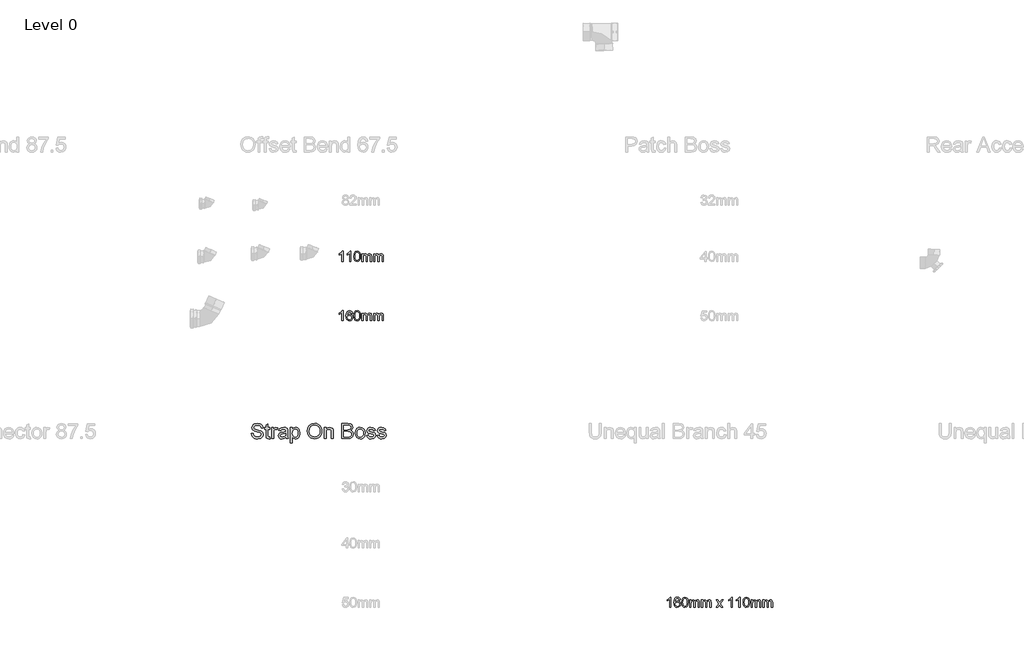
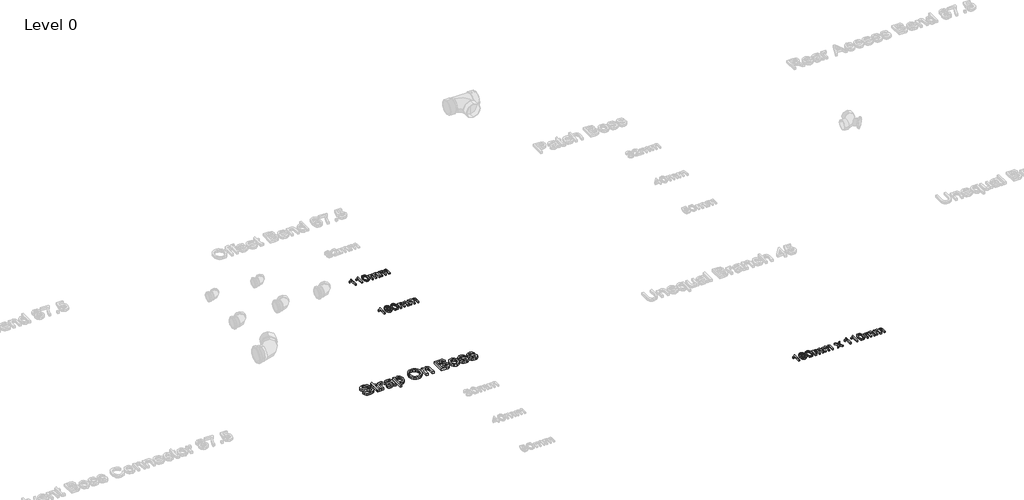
# One storey, part 5 of 28: 4 proxies.
"""IFC4 building model written with IfcOpenShell, lengths in millimetres."""

from ifc_helpers import new_model, si_unit, origin, origin_with_axes, place, context, project, spatial, polyline, outline, extrude, element, save

model = new_model("IFC4")

# Units and contexts
model_context = context("Model", 3, world=origin())
ifc_project = project(units=[si_unit("LENGTHUNIT", "METRE", prefix="MILLI")], contexts=[model_context])

# Site, building, storey
site = spatial("IfcSite", under=ifc_project)
building = spatial("IfcBuilding", under=site)
storey = spatial("IfcBuildingStorey", under=building, Name="Level 0", Elevation=0.0)

# Proxies
placement = place(None, origin())
element("IfcBuildingElementProxy", 1, Name="100mm Arial", ObjectType="100mm Arial", at=placement, inside=storey, context=model_context, shape_type="SweptSolid", body=[
    extrude(outline(polyline([(-10291.7293188, -742.2832696), (-10304.0370111, -742.2832696), (-10304.0370111, -665.5525004), (-10315.6956649, -673.8577889), (-10328.6523957, -680.0717312), (-10328.6523957, -668.4371158), (-10310.6115303, -656.9226927), (-10299.6620111, -643.8217312), (-10291.7293188, -643.8217312), (-10291.7293188, -742.2832696)])), origin_with_axes(), (0.0, 0.0, 1.0), 15.0),
    extrude(outline(polyline([(-10199.4216264, -669.9755773), (-10211.7293188, -671.5140389), (-10216.3927803, -661.2496158), (-10228.7245111, -656.1294235), (-10239.8302803, -659.1101927), (-10248.2317226, -670.3000965), (-10251.7293188, -692.2351927), (-10240.8759534, -682.4154812), (-10227.4264341, -679.2063465), (-10216.0562418, -681.3998562), (-10206.5129726, -687.980385), (-10200.0406168, -698.0344715), (-10197.8831649, -710.6486542), (-10201.9456649, -727.6318273), (-10213.1235495, -739.6510581), (-10229.2533572, -743.8217312), (-10243.2166986, -741.0573081), (-10254.3374918, -732.7640389), (-10261.6121313, -718.1246158), (-10264.0370111, -696.3217312), (-10261.3447034, -671.80851), (-10253.2677803, -655.0476927), (-10242.2401361, -646.6282215), (-10227.9552803, -643.8217312), (-10217.1560014, -645.55851), (-10208.5081649, -650.7688465), (-10202.4504726, -659.0440869), (-10199.4216264, -669.9755773)]), holes=[polyline([(-10251.7293188, -710.4563465), (-10248.8807611, -721.1174042), (-10241.3086457, -728.8577889), (-10230.2148957, -731.5140389), (-10222.0929005, -730.1378369), (-10215.7076841, -726.0092312), (-10211.5700639, -719.5188465), (-10210.1908572, -711.0573081), (-10211.5520351, -702.9353129), (-10215.6355688, -696.7424042), (-10230.7197034, -691.5140389), (-10245.6115303, -696.7424042), (-10250.1998716, -702.7850725), (-10251.7293188, -710.4563465)])]), origin_with_axes(), (0.0, 0.0, 1.0), 15.0),
    extrude(outline(polyline([(-10187.1139341, -693.8457696), (-10183.4961457, -665.5164427), (-10172.7509534, -649.1823081), (-10154.8062418, -643.8217312), (-10140.4312418, -646.9948081), (-10130.5033572, -656.1414427), (-10124.7341264, -670.7087504), (-10122.4985495, -693.8457696), (-10126.0802803, -722.0549042), (-10136.7894149, -738.4250965), (-10154.8062418, -743.8217312), (-10167.5947034, -741.4779812), (-10177.3062418, -734.4467312), (-10184.6620111, -717.7940869), (-10187.1139341, -693.8457696)]), holes=[polyline([(-10174.8062418, -693.8217312), (-10173.3639341, -713.1817071), (-10169.0370111, -724.386635), (-10162.5947034, -729.7321879), (-10154.8062418, -731.5140389), (-10147.0177803, -729.7261783), (-10140.5754726, -724.3625965), (-10136.2485495, -713.151659), (-10134.8062418, -693.8217312), (-10136.2004726, -674.8974523), (-10140.3831649, -663.605385), (-10146.8134534, -657.9984139), (-10154.9504726, -656.1294235), (-10162.6547995, -657.7760581), (-10168.8447034, -662.7159619), (-10173.3158572, -674.7111542), (-10174.8062418, -693.8217312)])]), origin_with_axes(), (0.0, 0.0, 1.0), 15.0),
    extrude(outline(polyline([(-10108.6523957, -742.2832696), (-10108.6523957, -669.9755773), (-10096.3447034, -669.9755773), (-10096.3447034, -681.8746158), (-10087.8831649, -672.1270196), (-10075.8398957, -668.4371158), (-10063.5081649, -672.199135), (-10056.7293188, -682.7400004), (-10047.1259534, -672.0128369), (-10034.9985495, -668.4371158), (-10025.7467466, -669.9244956), (-10018.9047995, -674.386635), (-10014.6770351, -681.9437264), (-10013.2677803, -692.7159619), (-10013.2677803, -742.2832696), (-10025.5754726, -742.2832696), (-10025.5754726, -698.0044235), (-10026.7172995, -687.7279812), (-10030.8519149, -682.667885), (-10037.8831649, -680.7448081), (-10049.9865303, -685.6726927), (-10054.8062418, -701.4659619), (-10054.8062418, -742.2832696), (-10067.1139341, -742.2832696), (-10067.1139341, -696.6342312), (-10069.9624918, -684.7111542), (-10079.3014341, -680.7448081), (-10088.4120111, -683.3890389), (-10094.4697034, -691.1294235), (-10096.3447034, -705.8169235), (-10096.3447034, -742.2832696), (-10108.6523957, -742.2832696)])), origin_with_axes(), (0.0, 0.0, 1.0), 15.0),
    extrude(outline(polyline([(-9994.8062418, -742.2832696), (-9994.8062418, -669.9755773), (-9982.4985495, -669.9755773), (-9982.4985495, -681.8746158), (-9974.0370111, -672.1270196), (-9961.9937418, -668.4371158), (-9949.6620111, -672.199135), (-9942.8831649, -682.7400004), (-9933.2797995, -672.0128369), (-9921.1523957, -668.4371158), (-9911.9005928, -669.9244956), (-9905.0586457, -674.386635), (-9900.8308813, -681.9437264), (-9899.4216264, -692.7159619), (-9899.4216264, -742.2832696), (-9911.7293188, -742.2832696), (-9911.7293188, -698.0044235), (-9912.8711457, -687.7279812), (-9917.0057611, -682.667885), (-9924.0370111, -680.7448081), (-9936.1403764, -685.6726927), (-9940.960088, -701.4659619), (-9940.960088, -742.2832696), (-9953.2677803, -742.2832696), (-9953.2677803, -696.6342312), (-9956.116338, -684.7111542), (-9965.4552803, -680.7448081), (-9974.5658572, -683.3890389), (-9980.6235495, -691.1294235), (-9982.4985495, -705.8169235), (-9982.4985495, -742.2832696), (-9994.8062418, -742.2832696)])), origin_with_axes(), (0.0, 0.0, 1.0), 15.0),
])
element("IfcBuildingElementProxy", 2, Name="100mm Arial", ObjectType="100mm Arial", at=placement, inside=storey, context=model_context, shape_type="SweptSolid", body=[
    extrude(outline(polyline([(-7091.7293188, -3542.2832696), (-7104.0370111, -3542.2832696), (-7104.0370111, -3465.5525004), (-7115.6956649, -3473.8577889), (-7128.6523957, -3480.0717312), (-7128.6523957, -3468.4371158), (-7110.6115303, -3456.9226927), (-7099.6620111, -3443.8217312), (-7091.7293188, -3443.8217312), (-7091.7293188, -3542.2832696)])), origin_with_axes(), (0.0, 0.0, 1.0), 15.0),
    extrude(outline(polyline([(-6999.4216264, -3469.9755773), (-7011.7293188, -3471.5140389), (-7016.3927803, -3461.2496158), (-7028.7245111, -3456.1294235), (-7039.8302803, -3459.1101927), (-7048.2317226, -3470.3000965), (-7051.7293188, -3492.2351927), (-7040.8759534, -3482.4154812), (-7027.4264341, -3479.2063465), (-7016.0562418, -3481.3998562), (-7006.5129726, -3487.980385), (-7000.0406168, -3498.0344715), (-6997.8831649, -3510.6486542), (-7001.9456649, -3527.6318273), (-7013.1235495, -3539.6510581), (-7029.2533572, -3543.8217312), (-7043.2166986, -3541.0573081), (-7054.3374918, -3532.7640389), (-7061.6121313, -3518.1246158), (-7064.0370111, -3496.3217312), (-7061.3447034, -3471.80851), (-7053.2677803, -3455.0476927), (-7042.2401361, -3446.6282215), (-7027.9552803, -3443.8217312), (-7017.1560014, -3445.55851), (-7008.5081649, -3450.7688465), (-7002.4504726, -3459.0440869), (-6999.4216264, -3469.9755773)]), holes=[polyline([(-7051.7293188, -3510.4563465), (-7048.8807611, -3521.1174042), (-7041.3086457, -3528.8577889), (-7030.2148957, -3531.5140389), (-7022.0929005, -3530.1378369), (-7015.7076841, -3526.0092312), (-7011.5700639, -3519.5188465), (-7010.1908572, -3511.0573081), (-7011.5520351, -3502.9353129), (-7015.6355688, -3496.7424042), (-7030.7197034, -3491.5140389), (-7045.6115303, -3496.7424042), (-7050.1998716, -3502.7850725), (-7051.7293188, -3510.4563465)])]), origin_with_axes(), (0.0, 0.0, 1.0), 15.0),
    extrude(outline(polyline([(-6987.1139341, -3493.8457696), (-6983.4961457, -3465.5164427), (-6972.7509534, -3449.1823081), (-6954.8062418, -3443.8217312), (-6940.4312418, -3446.9948081), (-6930.5033572, -3456.1414427), (-6924.7341264, -3470.7087504), (-6922.4985495, -3493.8457696), (-6926.0802803, -3522.0549042), (-6936.7894149, -3538.4250965), (-6954.8062418, -3543.8217312), (-6967.5947034, -3541.4779812), (-6977.3062418, -3534.4467312), (-6984.6620111, -3517.7940869), (-6987.1139341, -3493.8457696)]), holes=[polyline([(-6974.8062418, -3493.8217312), (-6973.3639341, -3513.1817071), (-6969.0370111, -3524.386635), (-6962.5947034, -3529.7321879), (-6954.8062418, -3531.5140389), (-6947.0177803, -3529.7261783), (-6940.5754726, -3524.3625965), (-6936.2485495, -3513.151659), (-6934.8062418, -3493.8217312), (-6936.2004726, -3474.8974523), (-6940.3831649, -3463.605385), (-6946.8134534, -3457.9984139), (-6954.9504726, -3456.1294235), (-6962.6547995, -3457.7760581), (-6968.8447034, -3462.7159619), (-6973.3158572, -3474.7111542), (-6974.8062418, -3493.8217312)])]), origin_with_axes(), (0.0, 0.0, 1.0), 15.0),
    extrude(outline(polyline([(-6908.6523957, -3542.2832696), (-6908.6523957, -3469.9755773), (-6896.3447034, -3469.9755773), (-6896.3447034, -3481.8746158), (-6887.8831649, -3472.1270196), (-6875.8398957, -3468.4371158), (-6863.5081649, -3472.199135), (-6856.7293188, -3482.7400004), (-6847.1259534, -3472.0128369), (-6834.9985495, -3468.4371158), (-6825.7467466, -3469.9244956), (-6818.9047995, -3474.386635), (-6814.6770351, -3481.9437264), (-6813.2677803, -3492.7159619), (-6813.2677803, -3542.2832696), (-6825.5754726, -3542.2832696), (-6825.5754726, -3498.0044235), (-6826.7172995, -3487.7279812), (-6830.8519149, -3482.667885), (-6837.8831649, -3480.7448081), (-6849.9865303, -3485.6726927), (-6854.8062418, -3501.4659619), (-6854.8062418, -3542.2832696), (-6867.1139341, -3542.2832696), (-6867.1139341, -3496.6342312), (-6869.9624918, -3484.7111542), (-6879.3014341, -3480.7448081), (-6888.4120111, -3483.3890389), (-6894.4697034, -3491.1294235), (-6896.3447034, -3505.8169235), (-6896.3447034, -3542.2832696), (-6908.6523957, -3542.2832696)])), origin_with_axes(), (0.0, 0.0, 1.0), 15.0),
    extrude(outline(polyline([(-6794.8062418, -3542.2832696), (-6794.8062418, -3469.9755773), (-6782.4985495, -3469.9755773), (-6782.4985495, -3481.8746158), (-6774.0370111, -3472.1270196), (-6761.9937418, -3468.4371158), (-6749.6620111, -3472.199135), (-6742.8831649, -3482.7400004), (-6733.2797995, -3472.0128369), (-6721.1523957, -3468.4371158), (-6711.9005928, -3469.9244956), (-6705.0586457, -3474.386635), (-6700.8308813, -3481.9437264), (-6699.4216264, -3492.7159619), (-6699.4216264, -3542.2832696), (-6711.7293188, -3542.2832696), (-6711.7293188, -3498.0044235), (-6712.8711457, -3487.7279812), (-6717.0057611, -3482.667885), (-6724.0370111, -3480.7448081), (-6736.1403764, -3485.6726927), (-6740.960088, -3501.4659619), (-6740.960088, -3542.2832696), (-6753.2677803, -3542.2832696), (-6753.2677803, -3496.6342312), (-6756.116338, -3484.7111542), (-6765.4552803, -3480.7448081), (-6774.5658572, -3483.3890389), (-6780.6235495, -3491.1294235), (-6782.4985495, -3505.8169235), (-6782.4985495, -3542.2832696), (-6794.8062418, -3542.2832696)])), origin_with_axes(), (0.0, 0.0, 1.0), 15.0),
    extrude(outline(polyline([(-6650.1908572, -3542.2832696), (-6623.8927803, -3505.9371158), (-6648.6523957, -3469.9755773), (-6633.8447034, -3469.9755773), (-6621.897588, -3487.2832696), (-6616.3206649, -3495.4563465), (-6611.4889341, -3488.7736542), (-6597.8831649, -3469.9755773), (-6583.0754726, -3469.9755773), (-6609.085088, -3505.9371158), (-6584.0370111, -3542.2832696), (-6598.8447034, -3542.2832696), (-6613.9168188, -3520.4323081), (-6616.6812418, -3516.4419235), (-6635.3831649, -3542.2832696), (-6650.1908572, -3542.2832696)])), origin_with_axes(), (0.0, 0.0, 1.0), 15.0),
    extrude(outline(polyline([(-6491.7293188, -3542.2832696), (-6504.0370111, -3542.2832696), (-6504.0370111, -3465.5525004), (-6515.6956649, -3473.8577889), (-6528.6523957, -3480.0717312), (-6528.6523957, -3468.4371158), (-6510.6115303, -3456.9226927), (-6499.6620111, -3443.8217312), (-6491.7293188, -3443.8217312), (-6491.7293188, -3542.2832696)])), origin_with_axes(), (0.0, 0.0, 1.0), 15.0),
    extrude(outline(polyline([(-6416.3447034, -3542.2832696), (-6428.6523957, -3542.2832696), (-6428.6523957, -3465.5525004), (-6440.3110495, -3473.8577889), (-6453.2677803, -3480.0717312), (-6453.2677803, -3468.4371158), (-6435.2269149, -3456.9226927), (-6424.2773957, -3443.8217312), (-6416.3447034, -3443.8217312), (-6416.3447034, -3542.2832696)])), origin_with_axes(), (0.0, 0.0, 1.0), 15.0),
    extrude(outline(polyline([(-6387.1139341, -3493.8457696), (-6383.4961457, -3465.5164427), (-6372.7509534, -3449.1823081), (-6354.8062418, -3443.8217312), (-6340.4312418, -3446.9948081), (-6330.5033572, -3456.1414427), (-6324.7341264, -3470.7087504), (-6322.4985495, -3493.8457696), (-6326.0802803, -3522.0549042), (-6336.7894149, -3538.4250965), (-6354.8062418, -3543.8217312), (-6367.5947034, -3541.4779812), (-6377.3062418, -3534.4467312), (-6384.6620111, -3517.7940869), (-6387.1139341, -3493.8457696)]), holes=[polyline([(-6374.8062418, -3493.8217312), (-6373.3639341, -3513.1817071), (-6369.0370111, -3524.386635), (-6362.5947034, -3529.7321879), (-6354.8062418, -3531.5140389), (-6347.0177803, -3529.7261783), (-6340.5754726, -3524.3625965), (-6336.2485495, -3513.151659), (-6334.8062418, -3493.8217312), (-6336.2004726, -3474.8974523), (-6340.3831649, -3463.605385), (-6346.8134534, -3457.9984139), (-6354.9504726, -3456.1294235), (-6362.6547995, -3457.7760581), (-6368.8447034, -3462.7159619), (-6373.3158572, -3474.7111542), (-6374.8062418, -3493.8217312)])]), origin_with_axes(), (0.0, 0.0, 1.0), 15.0),
    extrude(outline(polyline([(-6308.6523957, -3542.2832696), (-6308.6523957, -3469.9755773), (-6296.3447034, -3469.9755773), (-6296.3447034, -3481.8746158), (-6287.8831649, -3472.1270196), (-6275.8398957, -3468.4371158), (-6263.5081649, -3472.199135), (-6256.7293188, -3482.7400004), (-6247.1259534, -3472.0128369), (-6234.9985495, -3468.4371158), (-6225.7467466, -3469.9244956), (-6218.9047995, -3474.386635), (-6214.6770351, -3481.9437264), (-6213.2677803, -3492.7159619), (-6213.2677803, -3542.2832696), (-6225.5754726, -3542.2832696), (-6225.5754726, -3498.0044235), (-6226.7172995, -3487.7279812), (-6230.8519149, -3482.667885), (-6237.8831649, -3480.7448081), (-6249.9865303, -3485.6726927), (-6254.8062418, -3501.4659619), (-6254.8062418, -3542.2832696), (-6267.1139341, -3542.2832696), (-6267.1139341, -3496.6342312), (-6269.9624918, -3484.7111542), (-6279.3014341, -3480.7448081), (-6288.4120111, -3483.3890389), (-6294.4697034, -3491.1294235), (-6296.3447034, -3505.8169235), (-6296.3447034, -3542.2832696), (-6308.6523957, -3542.2832696)])), origin_with_axes(), (0.0, 0.0, 1.0), 15.0),
    extrude(outline(polyline([(-6194.8062418, -3542.2832696), (-6194.8062418, -3469.9755773), (-6182.4985495, -3469.9755773), (-6182.4985495, -3481.8746158), (-6174.0370111, -3472.1270196), (-6161.9937418, -3468.4371158), (-6149.6620111, -3472.199135), (-6142.8831649, -3482.7400004), (-6133.2797995, -3472.0128369), (-6121.1523957, -3468.4371158), (-6111.9005928, -3469.9244956), (-6105.0586457, -3474.386635), (-6100.8308813, -3481.9437264), (-6099.4216264, -3492.7159619), (-6099.4216264, -3542.2832696), (-6111.7293188, -3542.2832696), (-6111.7293188, -3498.0044235), (-6112.8711457, -3487.7279812), (-6117.0057611, -3482.667885), (-6124.0370111, -3480.7448081), (-6136.1403764, -3485.6726927), (-6140.960088, -3501.4659619), (-6140.960088, -3542.2832696), (-6153.2677803, -3542.2832696), (-6153.2677803, -3496.6342312), (-6156.116338, -3484.7111542), (-6165.4552803, -3480.7448081), (-6174.5658572, -3483.3890389), (-6180.6235495, -3491.1294235), (-6182.4985495, -3505.8169235), (-6182.4985495, -3542.2832696), (-6194.8062418, -3542.2832696)])), origin_with_axes(), (0.0, 0.0, 1.0), 15.0),
])
element("IfcBuildingElementProxy", 3, Name="100mm Arial", ObjectType="100mm Arial", at=placement, inside=storey, context=model_context, shape_type="SweptSolid", body=[
    extrude(outline(polyline([(-10291.7293188, -162.2832696), (-10304.0370111, -162.2832696), (-10304.0370111, -85.5525004), (-10315.6956649, -93.8577889), (-10328.6523957, -100.0717312), (-10328.6523957, -88.4371158), (-10310.6115303, -76.9226927), (-10299.6620111, -63.8217312), (-10291.7293188, -63.8217312), (-10291.7293188, -162.2832696)])), origin_with_axes(), (0.0, 0.0, 1.0), 15.0),
    extrude(outline(polyline([(-10216.3447034, -162.2832696), (-10228.6523957, -162.2832696), (-10228.6523957, -85.5525004), (-10240.3110495, -93.8577889), (-10253.2677803, -100.0717312), (-10253.2677803, -88.4371158), (-10235.2269149, -76.9226927), (-10224.2773957, -63.8217312), (-10216.3447034, -63.8217312), (-10216.3447034, -162.2832696)])), origin_with_axes(), (0.0, 0.0, 1.0), 15.0),
    extrude(outline(polyline([(-10187.1139341, -113.8457696), (-10183.4961457, -85.5164427), (-10172.7509534, -69.1823081), (-10154.8062418, -63.8217312), (-10140.4312418, -66.9948081), (-10130.5033572, -76.1414427), (-10124.7341264, -90.7087504), (-10122.4985495, -113.8457696), (-10126.0802803, -142.0549042), (-10136.7894149, -158.4250965), (-10154.8062418, -163.8217312), (-10167.5947034, -161.4779812), (-10177.3062418, -154.4467312), (-10184.6620111, -137.7940869), (-10187.1139341, -113.8457696)]), holes=[polyline([(-10174.8062418, -113.8217312), (-10173.3639341, -133.1817071), (-10169.0370111, -144.386635), (-10162.5947034, -149.7321879), (-10154.8062418, -151.5140389), (-10147.0177803, -149.7261783), (-10140.5754726, -144.3625965), (-10136.2485495, -133.151659), (-10134.8062418, -113.8217312), (-10136.2004726, -94.8974523), (-10140.3831649, -83.605385), (-10146.8134534, -77.9984139), (-10154.9504726, -76.1294235), (-10162.6547995, -77.7760581), (-10168.8447034, -82.7159619), (-10173.3158572, -94.7111542), (-10174.8062418, -113.8217312)])]), origin_with_axes(), (0.0, 0.0, 1.0), 15.0),
    extrude(outline(polyline([(-10108.6523957, -162.2832696), (-10108.6523957, -89.9755773), (-10096.3447034, -89.9755773), (-10096.3447034, -101.8746158), (-10087.8831649, -92.1270196), (-10075.8398957, -88.4371158), (-10063.5081649, -92.199135), (-10056.7293188, -102.7400004), (-10047.1259534, -92.0128369), (-10034.9985495, -88.4371158), (-10025.7467466, -89.9244956), (-10018.9047995, -94.386635), (-10014.6770351, -101.9437264), (-10013.2677803, -112.7159619), (-10013.2677803, -162.2832696), (-10025.5754726, -162.2832696), (-10025.5754726, -118.0044235), (-10026.7172995, -107.7279812), (-10030.8519149, -102.667885), (-10037.8831649, -100.7448081), (-10049.9865303, -105.6726927), (-10054.8062418, -121.4659619), (-10054.8062418, -162.2832696), (-10067.1139341, -162.2832696), (-10067.1139341, -116.6342312), (-10069.9624918, -104.7111542), (-10079.3014341, -100.7448081), (-10088.4120111, -103.3890389), (-10094.4697034, -111.1294235), (-10096.3447034, -125.8169235), (-10096.3447034, -162.2832696), (-10108.6523957, -162.2832696)])), origin_with_axes(), (0.0, 0.0, 1.0), 15.0),
    extrude(outline(polyline([(-9994.8062418, -162.2832696), (-9994.8062418, -89.9755773), (-9982.4985495, -89.9755773), (-9982.4985495, -101.8746158), (-9974.0370111, -92.1270196), (-9961.9937418, -88.4371158), (-9949.6620111, -92.199135), (-9942.8831649, -102.7400004), (-9933.2797995, -92.0128369), (-9921.1523957, -88.4371158), (-9911.9005928, -89.9244956), (-9905.0586457, -94.386635), (-9900.8308813, -101.9437264), (-9899.4216264, -112.7159619), (-9899.4216264, -162.2832696), (-9911.7293188, -162.2832696), (-9911.7293188, -118.0044235), (-9912.8711457, -107.7279812), (-9917.0057611, -102.667885), (-9924.0370111, -100.7448081), (-9936.1403764, -105.6726927), (-9940.960088, -121.4659619), (-9940.960088, -162.2832696), (-9953.2677803, -162.2832696), (-9953.2677803, -116.6342312), (-9956.116338, -104.7111542), (-9965.4552803, -100.7448081), (-9974.5658572, -103.3890389), (-9980.6235495, -111.1294235), (-9982.4985495, -125.8169235), (-9982.4985495, -162.2832696), (-9994.8062418, -162.2832696)])), origin_with_axes(), (0.0, 0.0, 1.0), 15.0),
])
element("IfcBuildingElementProxy", 4, Name="150mm Arial", ObjectType="150mm Arial", at=placement, inside=storey, context=model_context, shape_type="SweptSolid", body=[
    extrude(outline(polyline([(-11186.7587589, -1844.0162473), (-11168.2972204, -1844.0162473), (-11162.3477012, -1862.4958146), (-11147.8164512, -1874.1785069), (-11125.6770281, -1878.6316319), (-11106.3861627, -1875.2602377), (-11093.92823, -1865.9934108), (-11089.835682, -1853.6075935), (-11092.9005858, -1842.0871608), (-11105.4486627, -1833.7037473), (-11132.3296723, -1826.6544685), (-11161.2659704, -1817.5499012), (-11176.9690954, -1803.8119204), (-11182.1433743, -1785.458555), (-11180.5433142, -1774.6457545), (-11175.7431339, -1764.5631223), (-11167.8690353, -1756.0174492), (-11157.0472204, -1749.8155262), (-11129.679432, -1744.7854781), (-11100.4727012, -1750.0499012), (-11089.2767877, -1756.5493002), (-11081.0015473, -1765.5186512), (-11075.7641675, -1776.3990598), (-11073.6818358, -1788.6316319), (-11092.1433743, -1788.6316319), (-11095.5327973, -1777.6160069), (-11102.600105, -1769.6652858), (-11113.6427733, -1764.8515839), (-11128.9582781, -1763.2470165), (-11144.6343598, -1764.833555), (-11155.3885666, -1769.5931704), (-11161.6085185, -1776.5973771), (-11163.6818358, -1784.9176896), (-11162.2124848, -1792.0120406), (-11157.804432, -1797.7181704), (-11127.6602012, -1808.0306704), (-11094.991932, -1817.2974973), (-11084.467593, -1823.9952137), (-11077.1253454, -1832.2614396), (-11071.3741435, -1853.1388435), (-11073.0282901, -1864.5195526), (-11077.99073, -1875.22418), (-11086.0586387, -1884.4369204), (-11097.0291916, -1891.3419685), (-11124.9558743, -1897.0931704), (-11143.0433142, -1895.5426896), (-11157.9306339, -1890.8912473), (-11169.7891074, -1883.1208146), (-11178.7900089, -1872.2133627), (-11184.5682541, -1858.9261031), (-11186.7587589, -1844.0162473)])), origin_with_axes(), (0.0, 0.0, 1.0), 25.0),
    extrude(outline(polyline([(-11006.7587589, -1879.3888435), (-11004.4510666, -1895.3263435), (-11018.2611627, -1897.0931704), (-11033.7299127, -1894.0282665), (-11041.4462589, -1885.9874012), (-11043.6818358, -1865.0378819), (-11043.6818358, -1804.7854781), (-11057.5279897, -1804.7854781), (-11057.5279897, -1786.3239396), (-11043.6818358, -1786.3239396), (-11043.6818358, -1759.9657665), (-11025.2202973, -1749.1124012), (-11025.2202973, -1786.3239396), (-11006.7587589, -1786.3239396), (-11006.7587589, -1804.7854781), (-11025.2202973, -1804.7854781), (-11025.2202973, -1864.4970165), (-11024.2467397, -1874.0162473), (-11021.0916916, -1877.3876415), (-11014.7996243, -1878.6316319), (-11006.7587589, -1879.3888435)])), origin_with_axes(), (0.0, 0.0, 1.0), 25.0),
    extrude(outline(polyline([(-10988.2972204, -1894.7854781), (-10988.2972204, -1786.3239396), (-10972.1433743, -1786.3239396), (-10972.1433743, -1802.3696127), (-10960.6770281, -1787.5859589), (-10949.1385666, -1784.0162473), (-10930.6049127, -1789.7133627), (-10936.7707781, -1806.2638435), (-10949.7515473, -1802.4777858), (-10960.1902493, -1806.1196127), (-10966.8428935, -1816.2157665), (-10969.835682, -1837.7782665), (-10969.835682, -1894.7854781), (-10988.2972204, -1894.7854781)])), origin_with_axes(), (0.0, 0.0, 1.0), 25.0),
    extrude(outline(polyline([(-10849.835682, -1880.9393242), (-10867.7383262, -1893.4513435), (-10887.5159704, -1897.0931704), (-10902.9441555, -1894.9026656), (-10914.3248647, -1888.3311512), (-10921.342593, -1878.3521848), (-10923.6818358, -1865.9393242), (-10920.148182, -1851.3359589), (-10910.8633262, -1840.7349973), (-10897.9366435, -1834.677305), (-10881.9630858, -1831.9008627), (-10849.943855, -1825.5547089), (-10849.835682, -1821.4441319), (-10851.1067156, -1813.2049492), (-10854.9198166, -1807.8143242), (-10863.4474608, -1803.8119204), (-10875.3284704, -1802.4777858), (-10894.006355, -1806.0294685), (-10902.912605, -1818.6316319), (-10921.3741435, -1816.3239396), (-10913.3873647, -1798.2950935), (-10897.3056339, -1787.7301896), (-10872.9486627, -1784.0162473), (-10850.5748647, -1787.2974973), (-10837.9366435, -1795.53668), (-10832.2755858, -1808.0667281), (-10831.3741435, -1824.2205742), (-10831.3741435, -1847.1893242), (-10830.4366435, -1879.2626415), (-10826.7587589, -1894.7854781), (-10845.2202973, -1894.7854781), (-10849.835682, -1880.9393242)]), holes=[polyline([(-10849.835682, -1844.0162473), (-10879.6193358, -1849.677305), (-10895.5027493, -1852.6700935), (-10902.6962589, -1857.5378819), (-10905.2202973, -1864.6412473), (-10899.7214993, -1874.6292281), (-10883.585682, -1878.6316319), (-10864.9077973, -1874.2145646), (-10852.8645281, -1863.5234589), (-10849.943855, -1849.2446127), (-10849.835682, -1844.0162473)])]), origin_with_axes(), (0.0, 0.0, 1.0), 25.0),
    extrude(outline(polyline([(-10805.9895281, -1936.3239396), (-10805.9895281, -1786.3239396), (-10787.5279897, -1786.3239396), (-10787.5279897, -1804.4249012), (-10774.7635666, -1789.1184108), (-10757.5279897, -1784.0162473), (-10745.0430137, -1785.8011031), (-10734.1265473, -1791.1556704), (-10725.2383262, -1799.75543), (-10718.8380858, -1811.2758627), (-10713.6818358, -1839.7253819), (-10715.1376651, -1855.5141439), (-10719.5051531, -1869.6352377), (-10726.6445762, -1881.3720165), (-10736.4162108, -1890.0078339), (-10747.7969199, -1895.3218363), (-10759.7635666, -1897.0931704), (-10775.8272685, -1892.3515839), (-10787.5279897, -1880.3624012), (-10787.5279897, -1936.3239396), (-10805.9895281, -1936.3239396)]), holes=[polyline([(-10787.5279897, -1841.4200935), (-10785.5312949, -1857.9705742), (-10779.5412108, -1869.5450935), (-10770.702569, -1876.3599973), (-10760.1602012, -1878.6316319), (-10749.4465594, -1876.2788675), (-10740.382557, -1869.2205742), (-10734.2031699, -1857.2223771), (-10732.1433743, -1840.0499012), (-10734.1535906, -1823.5895646), (-10740.1842397, -1811.8527858), (-10749.0093598, -1804.8215358), (-10759.4029897, -1802.4777858), (-10769.8371844, -1804.9702738), (-10779.0003454, -1812.4477377), (-10785.3960786, -1824.6758026), (-10787.5279897, -1841.4200935)])]), origin_with_axes(), (0.0, 0.0, 1.0), 25.0),
    extrude(outline(polyline([(-10639.835682, -1822.8864396), (-10634.913807, -1790.2271848), (-10620.148182, -1765.5186512), (-10597.6031098, -1749.9687714), (-10569.3428935, -1744.7854781), (-10549.9708983, -1747.2193723), (-10532.600105, -1754.521055), (-10518.1770281, -1766.176704), (-10507.648182, -1781.6724973), (-10501.2118839, -1800.2602377), (-10499.0664512, -1821.1917281), (-10501.3245642, -1842.4026656), (-10508.0989031, -1861.2518242), (-10519.0153695, -1876.7746608), (-10533.6998647, -1888.0066319), (-10550.9219199, -1894.8215358), (-10569.4510666, -1897.0931704), (-10589.1205377, -1894.5826536), (-10606.5904897, -1887.0511031), (-10620.9775089, -1875.1791079), (-10631.398182, -1859.6472569), (-10637.726307, -1841.7761632), (-10639.835682, -1822.8864396)]), holes=[polyline([(-10621.3741435, -1823.0667281), (-10617.6827372, -1846.1706944), (-10606.6085185, -1863.7758627), (-10589.9633863, -1874.9176896), (-10569.5592397, -1878.6316319), (-10548.8576171, -1874.8816319), (-10532.1854416, -1863.6316319), (-10521.1923526, -1845.4855983), (-10517.5279897, -1821.0474973), (-10519.0964993, -1804.7043483), (-10523.8020281, -1790.5787473), (-10531.5228815, -1779.0267641), (-10542.1373647, -1770.4044685), (-10554.9423526, -1765.0363795), (-10569.2347204, -1763.2470165), (-10589.0934945, -1766.6950334), (-10605.9775089, -1777.0390839), (-10617.5249848, -1795.4420286), (-10621.3741435, -1823.0667281)])]), origin_with_axes(), (0.0, 0.0, 1.0), 25.0),
    extrude(outline(polyline([(-10475.9895281, -1894.7854781), (-10475.9895281, -1786.3239396), (-10457.5279897, -1786.3239396), (-10457.5279897, -1801.4681704), (-10443.4114031, -1788.3792281), (-10424.1385666, -1784.0162473), (-10406.7046723, -1787.5318723), (-10394.8056339, -1796.7626415), (-10389.2707781, -1810.3383627), (-10388.2972204, -1828.1869204), (-10388.2972204, -1894.7854781), (-10406.7587589, -1894.7854781), (-10406.7587589, -1830.6749012), (-10408.8861627, -1814.3407665), (-10416.4041916, -1805.7049492), (-10429.0784704, -1802.4777858), (-10439.8912709, -1804.2896848), (-10449.1085185, -1809.7253819), (-10455.4231219, -1820.2271848), (-10457.5279897, -1837.2374012), (-10457.5279897, -1894.7854781), (-10475.9895281, -1894.7854781)])), origin_with_axes(), (0.0, 0.0, 1.0), 25.0),
    extrude(outline(polyline([(-10302.912605, -1894.7854781), (-10302.912605, -1747.0931704), (-10246.554432, -1747.0931704), (-10218.9522685, -1751.4381223), (-10209.6764272, -1756.950442), (-10202.6541916, -1764.7974973), (-10196.7587589, -1783.6917281), (-10201.7166916, -1800.9453339), (-10216.6986627, -1814.0162473), (-10206.2374247, -1819.4789877), (-10198.507557, -1827.7902858), (-10193.7344199, -1838.4002617), (-10192.1433743, -1850.7590358), (-10196.4883262, -1870.6087954), (-10207.2515473, -1884.7434108), (-10223.3152493, -1892.2434108), (-10246.9871243, -1894.7854781), (-10302.912605, -1894.7854781)]), holes=[polyline([(-10284.4510666, -1876.3239396), (-10246.5904897, -1876.3239396), (-10232.8885666, -1875.6027858), (-10221.2960185, -1871.5823531), (-10213.61573, -1863.3792281), (-10210.6049127, -1850.9393242), (-10214.1385666, -1836.5883627), (-10225.5868839, -1828.0246608), (-10248.3933743, -1825.5547089), (-10284.4510666, -1825.5547089), (-10284.4510666, -1876.3239396)]), polyline([(-10284.4510666, -1807.0931704), (-10250.7371243, -1807.0931704), (-10231.0496243, -1805.5066319), (-10219.2046723, -1798.6736992), (-10215.2202973, -1786.6484589), (-10218.9342397, -1774.6051896), (-10229.5712589, -1767.4837954), (-10253.2972204, -1765.5547089), (-10284.4510666, -1765.5547089), (-10284.4510666, -1807.0931704)])]), origin_with_axes(), (0.0, 0.0, 1.0), 25.0),
    extrude(outline(polyline([(-10173.6818358, -1840.5547089), (-10169.6884464, -1814.4038675), (-10157.7082781, -1796.0234589), (-10142.9065954, -1787.0180502), (-10125.1842397, -1784.0162473), (-10105.7897084, -1787.6715959), (-10090.2984223, -1798.6376415), (-10080.1436747, -1816.0489997), (-10076.7587589, -1839.0402858), (-10078.2551531, -1857.6911271), (-10082.7443358, -1871.8888435), (-10090.0955978, -1882.5213555), (-10100.17823, -1890.4765839), (-10112.1538911, -1895.4390238), (-10125.1842397, -1897.0931704), (-10144.8131459, -1893.4513435), (-10160.2864031, -1882.5258627), (-10170.3329776, -1864.7494204), (-10173.6818358, -1840.5547089)]), holes=[polyline([(-10155.2202973, -1840.5186512), (-10153.0838791, -1857.2268843), (-10146.6746243, -1869.13043), (-10137.0291916, -1876.2563314), (-10125.1842397, -1878.6316319), (-10113.3933743, -1876.2428098), (-10103.7659704, -1869.0763435), (-10097.3567156, -1857.0150454), (-10095.2202973, -1839.9417281), (-10097.3702372, -1823.7202738), (-10103.820057, -1811.9789877), (-10113.4609824, -1804.8530863), (-10125.1842397, -1802.4777858), (-10137.0291916, -1804.8440718), (-10146.6746243, -1811.94293), (-10153.0838791, -1823.8194324), (-10155.2202973, -1840.5186512)])]), origin_with_axes(), (0.0, 0.0, 1.0), 25.0),
    extrude(outline(polyline([(-10062.912605, -1862.4777858), (-10044.4510666, -1860.1700935), (-10041.5394079, -1868.0667281), (-10035.9053935, -1873.8720165), (-10016.3260666, -1878.6316319), (-9997.5039512, -1874.2686512), (-9991.3741435, -1864.0282665), (-9997.5400089, -1855.7349973), (-10016.5424127, -1850.4705742), (-10044.3428935, -1841.4381223), (-10056.476307, -1830.8912473), (-10060.6049127, -1815.9994204), (-10057.287605, -1802.2434108), (-10048.2371243, -1791.7325935), (-10036.5003454, -1786.2698531), (-10020.616932, -1784.0162473), (-9998.1529897, -1787.6400454), (-9983.8741435, -1797.4477377), (-9977.5279897, -1814.0162473), (-9995.9895281, -1816.3239396), (-10002.9306339, -1806.1376415), (-10019.1746243, -1802.4777858), (-10036.8428935, -1805.9753819), (-10042.1433743, -1814.1244204), (-10039.943855, -1819.4970165), (-10033.0568358, -1823.5715358), (-10017.1553935, -1827.5018242), (-9990.0580377, -1836.1917281), (-9977.4739031, -1846.0354781), (-9972.912605, -1862.0811512), (-9978.2671723, -1879.7494204), (-9993.7178935, -1892.56793), (-10016.5784704, -1897.0931704), (-10035.1932541, -1894.91168), (-10048.7779897, -1888.3672089), (-10057.8464993, -1877.5318723), (-10062.912605, -1862.4777858)])), origin_with_axes(), (0.0, 0.0, 1.0), 25.0),
    extrude(outline(polyline([(-9959.0664512, -1862.4777858), (-9940.6049127, -1860.1700935), (-9937.6932541, -1868.0667281), (-9932.0592397, -1873.8720165), (-9912.4799127, -1878.6316319), (-9893.6577973, -1874.2686512), (-9887.5279897, -1864.0282665), (-9893.693855, -1855.7349973), (-9912.6962589, -1850.4705742), (-9940.4967397, -1841.4381223), (-9952.6301531, -1830.8912473), (-9956.7587589, -1815.9994204), (-9953.4414512, -1802.2434108), (-9944.3909704, -1791.7325935), (-9932.6541916, -1786.2698531), (-9916.7707781, -1784.0162473), (-9894.3068358, -1787.6400454), (-9880.0279897, -1797.4477377), (-9873.6818358, -1814.0162473), (-9892.1433743, -1816.3239396), (-9899.08448, -1806.1376415), (-9915.3284704, -1802.4777858), (-9932.9967397, -1805.9753819), (-9938.2972204, -1814.1244204), (-9936.0977012, -1819.4970165), (-9929.210682, -1823.5715358), (-9913.3092397, -1827.5018242), (-9886.2118839, -1836.1917281), (-9873.6277493, -1846.0354781), (-9869.0664512, -1862.0811512), (-9874.4210185, -1879.7494204), (-9889.8717397, -1892.56793), (-9912.7323166, -1897.0931704), (-9931.3471002, -1894.91168), (-9944.9318358, -1888.3672089), (-9954.0003454, -1877.5318723), (-9959.0664512, -1862.4777858)])), origin_with_axes(), (0.0, 0.0, 1.0), 25.0),
])

save(model, "model.ifc")
